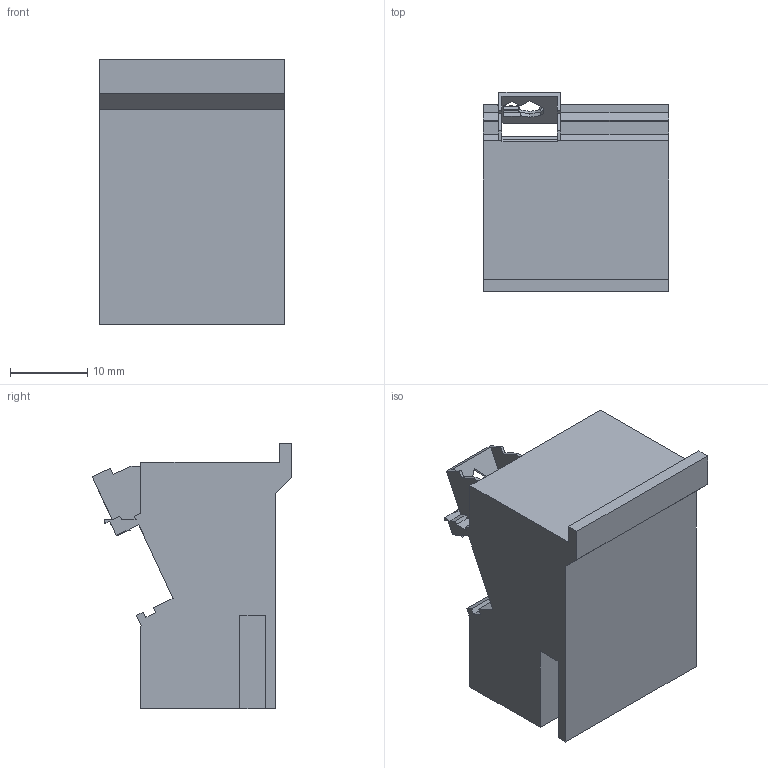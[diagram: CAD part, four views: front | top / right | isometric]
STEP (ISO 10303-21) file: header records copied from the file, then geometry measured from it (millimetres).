
FILE_DESCRIPTION(('Open CASCADE Model'),'2;1');
FILE_NAME('Open CASCADE Shape Model','2026-10-21T18:57:54',('Author'),( 'Open CASCADE'),'Open CASCADE STEP processor 8.0','build123d', 'Unknown');
FILE_SCHEMA(('AUTOMOTIVE_DESIGN { 1 0 10303 214 1 1 1 1 }'));
Length unit declared in the file: millimetre
Products named in the file (1): SOLID
Bounding box: 24 x 25.92 x 34.5 mm (x, y, z)
Volume: 12902.1 mm3; surface area: 4460.9 mm2
Topology: 1 solids, 1 shells, 172 faces, 487 edges, 314 vertices
Faces by surface type: plane 102, cylinder 69, bspline 1
Entity records: 12920 total; most frequent: CARTESIAN_POINT 3850, DIRECTION 1534, ORIENTED_EDGE 974, PCURVE 974, DEFINITIONAL_REPRESENTATION 974, LINE 688, VECTOR 688, EDGE_CURVE 487
